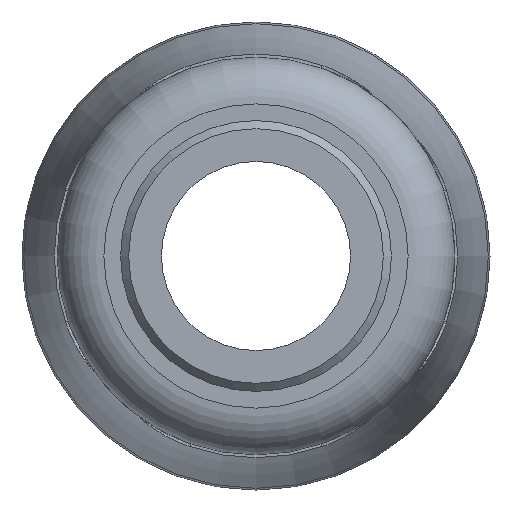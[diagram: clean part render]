
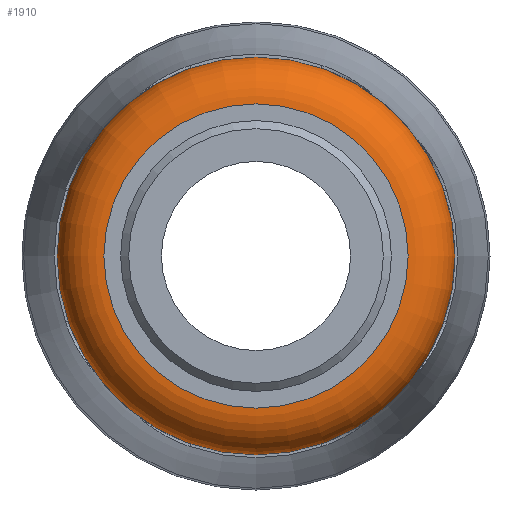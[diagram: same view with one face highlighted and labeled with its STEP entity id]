
A CAD part, left-side view. The second image highlights one B-rep face of the part: STEP entity #1910.
In plain terms, the highlighted toroidal (fillet/blend) face has major radius 33.475 mm and minor radius 10.3 mm.
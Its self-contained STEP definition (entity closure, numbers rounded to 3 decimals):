
#16=TOROIDAL_SURFACE('',#2116,33.475,10.3);
#241=FACE_OUTER_BOUND('',#350,.T.);
#350=EDGE_LOOP('',(#1458,#1459,#1460,#1461,#1462,#1463,#1464));
#666=CIRCLE('',#2083,43.775);
#667=CIRCLE('',#2084,43.775);
#668=CIRCLE('',#2085,43.775);
#690=CIRCLE('',#2117,10.3);
#691=CIRCLE('',#2118,33.475);
#692=CIRCLE('',#2119,33.475);
#812=VERTEX_POINT('',#3261);
#813=VERTEX_POINT('',#3263);
#814=VERTEX_POINT('',#3265);
#834=VERTEX_POINT('',#3369);
#835=VERTEX_POINT('',#3371);
#1027=EDGE_CURVE('',#813,#812,#666,.T.);
#1028=EDGE_CURVE('',#814,#813,#667,.T.);
#1029=EDGE_CURVE('',#812,#814,#668,.T.);
#1060=EDGE_CURVE('',#814,#834,#690,.T.);
#1061=EDGE_CURVE('',#834,#835,#691,.T.);
#1062=EDGE_CURVE('',#835,#834,#692,.T.);
#1458=ORIENTED_EDGE('',*,*,#1027,.T.);
#1459=ORIENTED_EDGE('',*,*,#1029,.T.);
#1460=ORIENTED_EDGE('',*,*,#1060,.T.);
#1461=ORIENTED_EDGE('',*,*,#1061,.T.);
#1462=ORIENTED_EDGE('',*,*,#1062,.T.);
#1463=ORIENTED_EDGE('',*,*,#1060,.F.);
#1464=ORIENTED_EDGE('',*,*,#1028,.T.);
#1910=ADVANCED_FACE('',(#241),#16,.T.);
#2083=AXIS2_PLACEMENT_3D('',#3264,#2419,#2420);
#2084=AXIS2_PLACEMENT_3D('',#3266,#2421,#2422);
#2085=AXIS2_PLACEMENT_3D('',#3267,#2423,#2424);
#2116=AXIS2_PLACEMENT_3D('',#3368,#2490,#2491);
#2117=AXIS2_PLACEMENT_3D('',#3370,#2492,#2493);
#2118=AXIS2_PLACEMENT_3D('',#3372,#2494,#2495);
#2119=AXIS2_PLACEMENT_3D('',#3373,#2496,#2497);
#2419=DIRECTION('center_axis',(-1.,0.,0.));
#2420=DIRECTION('ref_axis',(0.,-1.,0.));
#2421=DIRECTION('center_axis',(-1.,0.,0.));
#2422=DIRECTION('ref_axis',(0.,-1.,0.));
#2423=DIRECTION('center_axis',(-1.,0.,0.));
#2424=DIRECTION('ref_axis',(0.,-1.,0.));
#2490=DIRECTION('center_axis',(1.,0.,0.));
#2491=DIRECTION('ref_axis',(0.,0.,-1.));
#2492=DIRECTION('center_axis',(0.,-1.,0.));
#2493=DIRECTION('ref_axis',(0.,0.,1.));
#2494=DIRECTION('center_axis',(1.,0.,0.));
#2495=DIRECTION('ref_axis',(0.,-1.,0.));
#2496=DIRECTION('center_axis',(1.,0.,0.));
#2497=DIRECTION('ref_axis',(0.,-1.,0.));
#3261=CARTESIAN_POINT('',(33.3,-43.775,0.));
#3263=CARTESIAN_POINT('',(33.3,43.775,0.));
#3264=CARTESIAN_POINT('Origin',(33.3,0.,0.));
#3265=CARTESIAN_POINT('',(33.3,0.,43.775));
#3266=CARTESIAN_POINT('Origin',(33.3,0.,0.));
#3267=CARTESIAN_POINT('Origin',(33.3,0.,0.));
#3368=CARTESIAN_POINT('Origin',(33.3,0.,0.));
#3369=CARTESIAN_POINT('',(23.,0.,33.475));
#3370=CARTESIAN_POINT('Origin',(33.3,0.,33.475));
#3371=CARTESIAN_POINT('',(23.,33.475,0.));
#3372=CARTESIAN_POINT('Origin',(23.,0.,0.));
#3373=CARTESIAN_POINT('Origin',(23.,0.,0.));
